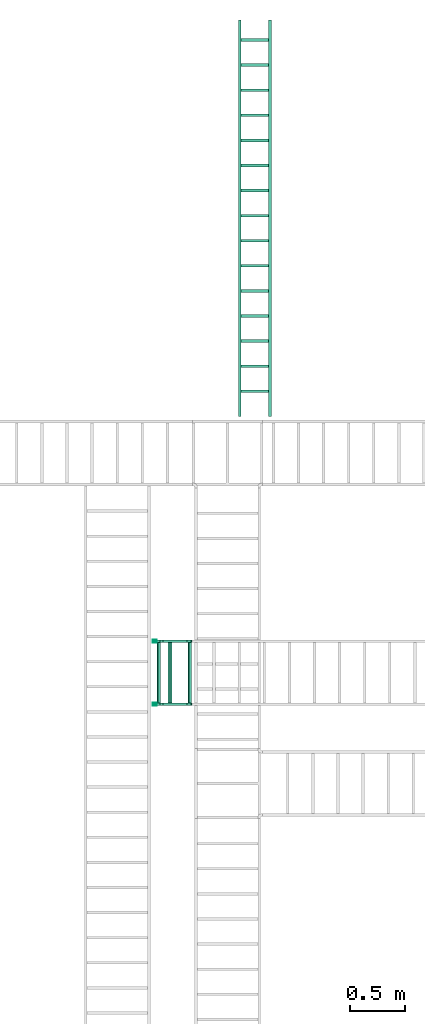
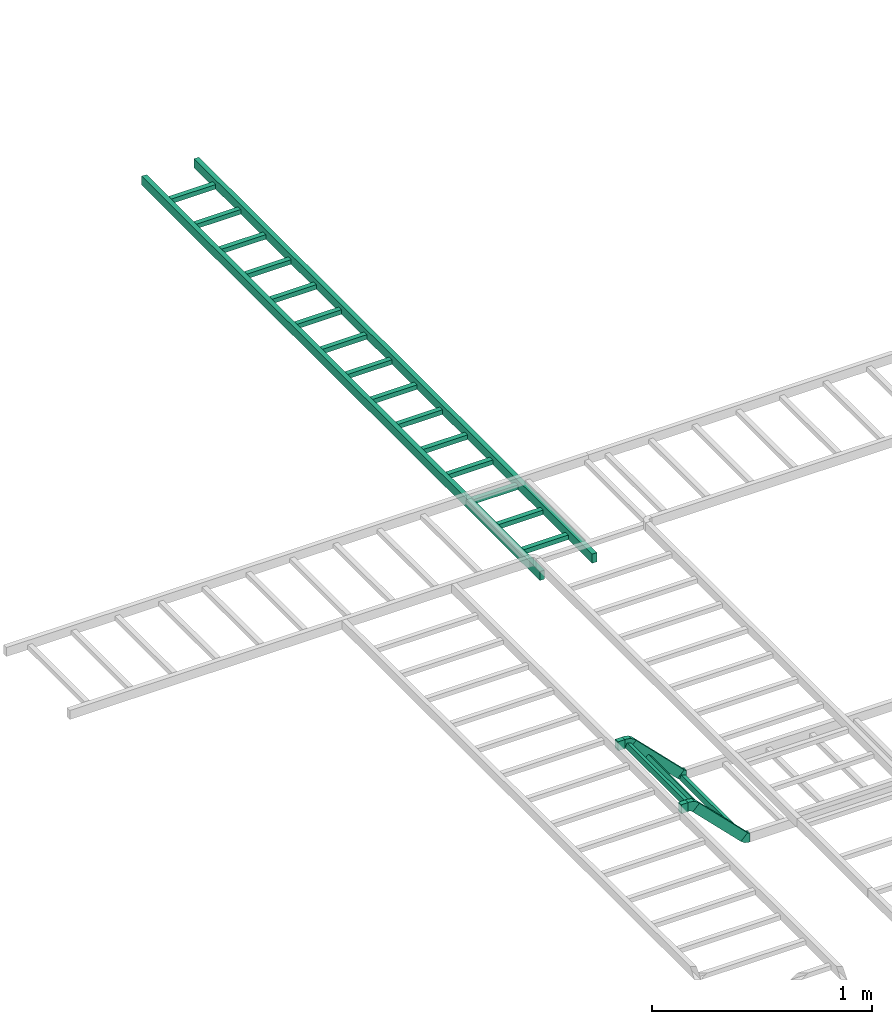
# One storey, part 6 of 6: 3 flow segments, 2 flow fittings.
"""IFC2X3 building model written with IfcOpenShell, lengths in millimetres."""

from ifc_helpers import new_model, entity, si_unit, converted_unit, derived_unit, direction, frame, origin_with_axes, place, context, subcontext, project, spatial, open_shell, faceted_brep, surface_model, source, transform, mapped, type_object, element, save


model = new_model("IFC2X3")

# Units and contexts
model_context = context("Model", 3, precision=0.01, world=frame((0.0, 4.29681676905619e-09, 0.0)), true_north=direction((4.01073788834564e-13, 1.0)))
plan_context = context("Plan", 3, precision=0.01, world=frame((0.0, 4.29681676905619e-09, 0.0)), true_north=direction((4.01073788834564e-13, 1.0)))
body_context = subcontext(model_context, "Body", "Model", "MODEL_VIEW")
ifc_project = project(units=[converted_unit("PLANEANGLEUNIT", "DEGREE", entity("IfcPositiveLengthMeasure", 0.0174532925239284), si_unit("PLANEANGLEUNIT", "RADIAN"), dimensions=[0, 0, 0, 0, 0, 0, 0]), si_unit("AREAUNIT", "SQUARE_METRE"), si_unit("LENGTHUNIT", "METRE", prefix="MILLI"), si_unit("MASSUNIT", "GRAM", prefix="KILO"), si_unit("POWERUNIT", "WATT"), si_unit("PRESSUREUNIT", "PASCAL", prefix="KILO"), si_unit("FORCEUNIT", "NEWTON", prefix="KILO"), si_unit("ELECTRICVOLTAGEUNIT", "VOLT"), si_unit("ELECTRICCURRENTUNIT", "AMPERE"), si_unit("THERMODYNAMICTEMPERATUREUNIT", "DEGREE_CELSIUS"), si_unit("TIMEUNIT", "SECOND"), si_unit("VOLUMEUNIT", "CUBIC_METRE"), derived_unit("LINEARVELOCITYUNIT", [(si_unit("LENGTHUNIT", "METRE"), 1), (si_unit("TIMEUNIT", "SECOND"), -1)]), derived_unit("VOLUMETRICFLOWRATEUNIT", [(si_unit("VOLUMEUNIT", "CUBIC_METRE"), 1), (si_unit("TIMEUNIT", "SECOND"), -1)]), derived_unit("THERMALTRANSMITTANCEUNIT", [(si_unit("POWERUNIT", "WATT"), 1), (si_unit("THERMODYNAMICTEMPERATUREUNIT", "KELVIN"), -1), (si_unit("AREAUNIT", "SQUARE_METRE"), -1)]), derived_unit("SOUNDPRESSUREUNIT", [(si_unit("PRESSUREUNIT", "PASCAL"), 1)])], contexts=[model_context, plan_context])

# Site, building, storey
site_placement = place(None, frame((0.0, -4.29681676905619e-09, 0.0), z_axis=(0.0, 0.0, 1.0), x_axis=(1.0, 0.0, 0.0)))
site = spatial("IfcSite", under=ifc_project, at=site_placement, Name="ENGM", CompositionType="ELEMENT")
building_placement = place(site_placement, frame((0.0, 4.29681676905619e-09, 0.0), z_axis=(0.0, 0.0, 1.0), x_axis=(1.0, 0.0, 0.0)))
building = spatial("IfcBuilding", under=site, at=building_placement, Name="TS", CompositionType="ELEMENT")
storey_placement = place(building_placement, frame((0.0, 0.0, 210900.0), z_axis=(0.0, 0.0, 1.0), x_axis=(1.0, 0.0, 0.0)))
storey = spatial("IfcBuildingStorey", under=building, at=storey_placement, Name="Nivå F", CompositionType="ELEMENT", Elevation=210900.0)

# Flow fittings
cable_carrier_fitting_type = type_object("IfcCableCarrierFittingType", Name="Standard 10mm", PredefinedType="BEND")
shared_shape_1 = source(origin_with_axes(), body_context, "Body", "SurfaceModel", [
    surface_model("IfcShellBasedSurfaceModel", [(10.47664, 7.89385, 274.60001), (20.1968, -15.57269, -274.60001), (10.47664, 7.89385, -274.60001), (20.1968, -15.57269, 274.60001), (-3.26974, -25.29285, 274.60001), (-3.26974, -25.29285, -274.60001), (-12.9899, -1.82631, -274.60001), (-12.9899, -1.82631, 274.60001), (-17.49748, 25.0, 300.0), (-17.49748, 25.0, 274.60001), (-17.49748, -25.0, 274.60001), (-17.49748, -25.0, 300.0), (-17.49748, 25.0, -274.60001), (-17.49748, 25.0, -300.0), (-17.49748, -25.0, -300.0), (-17.49748, -25.0, -274.60001), (-14.49747, 25.0, 274.60001), (-14.49747, 25.0, 300.0), (-14.49747, -25.0, 274.60001), (8.46353, -20.43277, 274.60001), (-10.67064, 25.7612, 274.60001), (-7.42641, 27.92893, 274.60001), (-5.30509, 30.05025, 274.60001), (27.92893, -7.42641, 274.60001), (30.05025, -5.30509, 274.60001), (-14.49747, -25.0, 300.0), (8.46353, -20.43277, 300.0), (-10.67064, 25.7612, 300.0), (27.92893, -7.42641, 300.0), (-7.42641, 27.92893, 300.0), (-5.30509, 30.05025, 300.0), (30.05025, -5.30509, 300.0), (-14.49747, 25.0, -300.0), (-14.49747, 25.0, -274.60001), (-14.49747, -25.0, -300.0), (8.46353, -20.43277, -300.0), (-10.67064, 25.7612, -300.0), (-7.42641, 27.92893, -300.0), (-5.30509, 30.05025, -300.0), (27.92893, -7.42641, -300.0), (30.05025, -5.30509, -300.0), (-14.49747, -25.0, -274.60001), (8.46353, -20.43277, -274.60001), (-10.67064, 25.7612, -274.60001), (27.92893, -7.42641, -274.60001), (-7.42641, 27.92893, -274.60001), (-5.30509, 30.05025, -274.60001), (30.05025, -5.30509, -274.60001), (-3.01697, -22.71639, 300.0), (-3.01697, -22.71639, 274.60001), (16.41376, -15.1206, 274.60001), (18.19623, -13.92959, 300.0), (-0.91441, -22.29816, -300.0), (-3.01697, -22.71639, -274.60001), (18.19623, -13.92959, -274.60001), (18.19623, -13.92959, -300.0)], [open_shell([[[0, 1, 2]], [[1, 0, 3]], [[1, 3, 4]], [[4, 5, 1]], [[2, 1, 5]], [[5, 6, 2]], [[0, 2, 6]], [[6, 7, 0]], [[3, 0, 7]], [[7, 4, 3]], [[6, 5, 4]], [[4, 7, 6]], [[8, 9, 10]], [[10, 11, 8]], [[12, 13, 14]], [[14, 15, 12]], [[9, 8, 16]], [[17, 16, 8]], [[9, 18, 10]], [[18, 9, 16]], [[19, 18, 16]], [[16, 20, 19]], [[21, 22, 23]], [[21, 23, 19]], [[23, 22, 24]], [[21, 19, 20]], [[11, 10, 18]], [[18, 25, 11]], [[11, 25, 8]], [[17, 8, 25]], [[26, 27, 17]], [[17, 25, 26]], [[26, 28, 29]], [[28, 30, 29]], [[30, 28, 31]], [[26, 29, 27]], [[13, 12, 32]], [[33, 32, 12]], [[13, 34, 14]], [[34, 13, 32]], [[35, 34, 32]], [[32, 36, 35]], [[37, 38, 39]], [[37, 39, 35]], [[39, 38, 40]], [[37, 35, 36]], [[15, 14, 34]], [[34, 41, 15]], [[15, 41, 12]], [[33, 12, 41]], [[42, 43, 33]], [[33, 41, 42]], [[42, 44, 45]], [[44, 46, 45]], [[46, 44, 47]], [[42, 45, 43]], [[27, 16, 17]], [[20, 16, 27]], [[29, 21, 20]], [[27, 29, 20]], [[18, 48, 25]], [[49, 26, 48]], [[26, 49, 19]], [[26, 50, 51]], [[23, 28, 51]], [[50, 26, 19]], [[23, 51, 50]], [[18, 49, 48]], [[33, 36, 32]], [[43, 36, 33]], [[45, 37, 43]], [[36, 43, 37]], [[42, 52, 35]], [[34, 52, 53]], [[41, 34, 53]], [[52, 42, 53]], [[54, 42, 55]], [[39, 44, 54]], [[39, 54, 55]], [[42, 35, 55]], [[24, 22, 31]], [[30, 31, 22]], [[40, 38, 46]], [[46, 47, 40]], [[21, 29, 30]], [[30, 22, 21]], [[28, 23, 24]], [[24, 31, 28]], [[37, 45, 38]], [[46, 38, 45]], [[44, 39, 40]], [[40, 47, 44]]])]),
])
flow_fitting_1_placement = place(storey_placement, frame((716826.81323, 440264.80936, 3618.23548999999), z_axis=(0.0, 1.0, 0.0), x_axis=(-1.0, 0.0, 0.0)))
element("IfcFlowFitting", 1, at=flow_fitting_1_placement, inside=storey, type_object=cable_carrier_fitting_type, Name="Standard 10mm", context=body_context, shape_type="MappedRepresentation", body=[
    mapped(shared_shape_1, transform((0.0, 0.0, 0.0), scale=1.0)),
])
shared_shape_2 = source(origin_with_axes(), body_context, "Body", "SurfaceModel", [
    surface_model("IfcShellBasedSurfaceModel", [(-7.42641, 27.92893, 274.60001), (27.92893, -7.42641, 274.60001), (8.46353, -20.43277, 274.60001), (-10.67064, 25.7612, 274.60001), (8.46353, -20.43277, 300.0), (27.92893, -7.42641, 300.0), (-7.42641, 27.92893, 300.0), (-10.67064, 25.7612, 300.0), (-7.42641, 27.92893, -300.0), (27.92893, -7.42641, -300.0), (8.46353, -20.43277, -300.0), (-10.67064, 25.7612, -300.0), (8.46353, -20.43277, -274.60001), (27.92893, -7.42641, -274.60001), (-7.42641, 27.92893, -274.60001), (-10.67064, 25.7612, -274.60001), (-14.49747, 25.0, 274.60001), (-14.49747, 25.0, 300.0), (-14.49747, -25.0, 274.60001), (-3.01697, -22.71639, 300.0), (-14.49747, -25.0, 300.0), (-3.01697, -22.71639, 274.60001), (16.41376, -15.1206, 274.60001), (18.19623, -13.92959, 300.0), (-14.49747, 25.0, -274.60001), (-14.49747, 25.0, -300.0), (-0.91441, -22.29816, -300.0), (-14.49747, -25.0, -300.0), (-3.01697, -22.71639, -274.60001), (-14.49747, -25.0, -274.60001), (18.19623, -13.92959, -274.60001), (18.19623, -13.92959, -300.0), (1.06263, 30.62128, 274.60001), (10.78279, 7.15474, -274.60001), (1.06263, 30.62128, -274.60001), (10.78279, 7.15474, 274.60001), (-12.68375, -2.56542, -274.60001), (-12.68375, -2.56542, 274.60001), (-22.40391, 20.90112, -274.60001), (-22.40391, 20.90112, 274.60001), (-24.49747, 25.0, 300.0), (-24.49747, 25.0, 274.60001), (-24.49747, -25.0, 274.60001), (-24.49747, -25.0, 300.0), (-24.49747, 25.0, -274.60001), (-24.49747, 25.0, -300.0), (-24.49747, -25.0, -300.0), (-24.49747, -25.0, -274.60001), (-0.35534, 35.0, 274.60001), (35.0, -0.35534, 274.60001), (-0.35534, 35.0, 300.0), (35.0, -0.35534, 300.0), (-0.35534, 35.0, -300.0), (35.0, -0.35534, -300.0), (-0.35534, 35.0, -274.60001), (35.0, -0.35534, -274.60001)], [open_shell([[[0, 1, 2]], [[0, 2, 3]], [[4, 5, 6]], [[4, 6, 7]], [[8, 9, 10]], [[8, 10, 11]], [[12, 13, 14]], [[12, 14, 15]], [[7, 16, 17]], [[3, 16, 7]], [[6, 0, 3]], [[7, 6, 3]], [[18, 19, 20]], [[21, 4, 19]], [[4, 21, 2]], [[4, 22, 23]], [[1, 5, 23]], [[22, 4, 2]], [[1, 23, 22]], [[18, 21, 19]], [[24, 11, 25]], [[15, 11, 24]], [[14, 8, 15]], [[11, 15, 8]], [[12, 26, 10]], [[27, 26, 28]], [[29, 27, 28]], [[26, 12, 28]], [[30, 12, 31]], [[9, 13, 30]], [[9, 30, 31]], [[12, 10, 31]], [[32, 33, 34]], [[33, 32, 35]], [[33, 35, 36]], [[37, 36, 35]], [[34, 33, 36]], [[36, 38, 34]], [[32, 34, 38]], [[38, 39, 32]], [[35, 32, 39]], [[39, 37, 35]], [[38, 36, 37]], [[37, 39, 38]], [[40, 41, 42]], [[42, 43, 40]], [[44, 45, 46]], [[46, 47, 44]], [[41, 40, 16]], [[17, 16, 40]], [[41, 18, 42]], [[18, 41, 16]], [[18, 16, 3]], [[3, 2, 18]], [[0, 48, 1]], [[1, 48, 49]], [[43, 42, 18]], [[18, 20, 43]], [[43, 20, 40]], [[17, 40, 20]], [[7, 17, 20]], [[20, 4, 7]], [[5, 50, 6]], [[50, 5, 51]], [[45, 44, 25]], [[24, 25, 44]], [[45, 27, 46]], [[27, 45, 25]], [[27, 25, 11]], [[11, 10, 27]], [[8, 52, 9]], [[9, 52, 53]], [[47, 46, 27]], [[27, 29, 47]], [[47, 29, 44]], [[24, 44, 29]], [[15, 24, 29]], [[29, 12, 15]], [[13, 54, 14]], [[54, 13, 55]], [[49, 48, 51]], [[50, 51, 48]], [[53, 52, 55]], [[54, 55, 52]], [[0, 6, 48]], [[50, 48, 6]], [[5, 1, 49]], [[49, 51, 5]], [[8, 14, 54]], [[54, 52, 8]], [[13, 9, 55]], [[53, 55, 9]]])]),
])
flow_fitting_2_placement = place(storey_placement, frame((716545.04872, 440264.80936, 3900.0), z_axis=(0.0, -1.0, 0.0), x_axis=(-0.707106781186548, 0.0, 0.707106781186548)))
element("IfcFlowFitting", 2, at=flow_fitting_2_placement, inside=storey, type_object=cable_carrier_fitting_type, Name="Standard 10mm", context=body_context, shape_type="MappedRepresentation", body=[
    mapped(shared_shape_2, transform((0.0, 0.0, 0.0), scale=1.0)),
])

# Flow segments
cable_carrier_segment_type = type_object("IfcCableCarrierSegmentType", Name="Kabelbro", PredefinedType="CABLELADDERSEGMENT")
shared_shape_3 = source(origin_with_axes(), body_context, "Body", "SurfaceModel", [
    surface_model("IfcShellBasedSurfaceModel", [(0.0, -300.0, 25.0), (0.0, -274.60001, -25.0), (0.0, -300.0, -25.0), (0.0, -274.60001, 25.0), (215.89999, -274.60001, -25.0), (241.30001, -274.60001, -25.0), (241.30001, -274.60001, 0.4), (215.89999, -274.60001, 0.4), (241.30001, 274.60001, 0.4), (241.30001, 274.60001, -25.0), (215.89999, 274.60001, -25.0), (215.89999, 274.60001, 0.4), (0.0, 300.0, 25.0), (0.0, 300.0, -25.0), (0.0, 274.60001, -25.0), (0.0, 274.60001, 25.0), (356.48024, -300.0, -25.0), (356.48024, -274.60001, -25.0), (356.48024, -300.0, 25.0), (356.48024, -274.60001, 25.0), (356.48024, 274.60001, -25.0), (356.48024, 300.0, -25.0), (356.48024, 274.60001, 25.0), (356.48024, 300.0, 25.0)], [open_shell([[[0, 1, 2]], [[1, 0, 3]], [[4, 5, 6]], [[6, 7, 4]], [[8, 9, 10]], [[10, 11, 8]], [[6, 5, 9]], [[9, 8, 6]], [[4, 7, 11]], [[11, 10, 4]], [[7, 6, 8]], [[8, 11, 7]], [[12, 13, 14]], [[14, 15, 12]], [[5, 4, 10]], [[10, 9, 5]], [[16, 17, 18]], [[19, 18, 17]], [[20, 21, 22]], [[23, 22, 21]], [[0, 2, 18]], [[16, 18, 2]], [[3, 0, 18]], [[18, 19, 3]], [[1, 3, 19]], [[19, 17, 1]], [[2, 1, 17]], [[17, 16, 2]], [[13, 12, 23]], [[23, 21, 13]], [[14, 13, 21]], [[21, 20, 14]], [[15, 14, 22]], [[20, 22, 14]], [[12, 15, 22]], [[22, 23, 12]]])]),
])
flow_segment_1_placement = place(storey_placement, frame((716814.44065, 440264.80936, 3630.60806999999), z_axis=(0.707106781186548, 0.0, 0.707106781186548), x_axis=(-0.707106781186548, 0.0, 0.707106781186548)))
element("IfcFlowSegment", 3, at=flow_segment_1_placement, inside=storey, type_object=cable_carrier_segment_type, Name="Kabelbro", context=body_context, shape_type="MappedRepresentation", body=[
    mapped(shared_shape_3, transform((0.0, 0.0, 0.0), scale=1.0)),
])
shared_shape_4 = source(origin_with_axes(), body_context, "Body", "SurfaceModel", [
    surface_model("IfcShellBasedSurfaceModel", [(0.0, -274.60001, 25.0), (0.0, -300.0, -25.0), (0.0, -300.0, 25.0), (0.0, -274.60001, -25.0), (0.0, 300.0, 25.0), (0.0, 274.60001, -25.0), (0.0, 274.60001, 25.0), (0.0, 300.0, -25.0), (35.50253, -300.0, 25.0), (35.50253, -300.0, -25.0), (35.50253, -274.60001, 25.0), (35.50253, -274.60001, -25.0), (35.50253, 274.60001, 25.0), (35.50253, 274.60001, -25.0), (35.50253, 300.0, 25.0), (35.50253, 300.0, -25.0)], [open_shell([[[0, 1, 2]], [[1, 0, 3]], [[4, 5, 6]], [[5, 4, 7]], [[8, 9, 10]], [[11, 10, 9]], [[12, 13, 14]], [[15, 14, 13]], [[2, 1, 9]], [[9, 8, 2]], [[0, 2, 8]], [[8, 10, 0]], [[3, 0, 10]], [[10, 11, 3]], [[1, 3, 11]], [[11, 9, 1]], [[7, 4, 14]], [[14, 15, 7]], [[5, 7, 15]], [[15, 13, 5]], [[6, 5, 13]], [[13, 12, 6]], [[4, 6, 12]], [[12, 14, 4]]])]),
])
flow_segment_2_placement = place(storey_placement, frame((716520.55125, 440264.80936, 3900.0), z_axis=(0.0, 0.0, 1.0), x_axis=(-1.0, 0.0, 0.0)))
element("IfcFlowSegment", 4, at=flow_segment_2_placement, inside=storey, type_object=cable_carrier_segment_type, Name="Kabelbro", context=body_context, shape_type="MappedRepresentation", body=[
    mapped(shared_shape_4, transform((0.0, 0.0, 0.0), scale=1.0)),
])
flow_segment_3_placement = place(storey_placement, frame((717415.2469, 442600.3397, 3320.0), z_axis=(0.0, 0.0, 1.0), x_axis=(0.0, 1.0, 0.0)))
element("IfcFlowSegment", 5, at=flow_segment_3_placement, inside=storey, type_object=cable_carrier_segment_type, Name="Kabelbro", context=body_context, shape_type="Brep", body=[
    faceted_brep([(241.30001, 124.6, -25.0), (241.30001, -124.6, -25.0), (241.30001, -124.6, 0.4), (241.30001, 124.6, 0.4), (215.89999, 124.6, 0.4), (215.89999, -124.6, 0.4), (215.89999, -124.6, -25.0), (215.89999, 124.6, -25.0), (469.89999, 124.6, -25.0), (469.89999, -124.6, -25.0), (469.89999, -124.6, 0.4), (469.89999, 124.6, 0.4), (444.50001, 124.6, 0.4), (444.50001, -124.6, 0.4), (444.50001, -124.6, -25.0), (444.50001, 124.6, -25.0), (698.50002, 124.6, -25.0), (698.50002, -124.6, -25.0), (698.50002, -124.6, 0.4), (698.50002, 124.6, 0.4), (673.09998, 124.6, 0.4), (673.09998, -124.6, 0.4), (673.09998, -124.6, -25.0), (673.09998, 124.6, -25.0), (927.10002, 124.6, -25.0), (927.10002, -124.6, -25.0), (927.10002, -124.6, 0.4), (927.10002, 124.6, 0.4), (901.69998, 124.6, 0.4), (901.69998, -124.6, 0.4), (901.69998, -124.6, -25.0), (901.69998, 124.6, -25.0), (1155.70002, 124.6, -25.0), (1155.70002, -124.6, -25.0), (1155.70002, -124.6, 0.4), (1155.70002, 124.6, 0.4), (1130.29998, 124.6, 0.4), (1130.29998, -124.6, 0.4), (1130.29998, -124.6, -25.0), (1130.29998, 124.6, -25.0), (1384.29995, 124.6, -25.0), (1384.29995, -124.6, -25.0), (1384.29995, -124.6, 0.4), (1384.29995, 124.6, 0.4), (1358.90005, 124.6, 0.4), (1358.90005, -124.6, 0.4), (1358.90005, -124.6, -25.0), (1358.90005, 124.6, -25.0), (1612.89995, 124.6, -25.0), (1612.89995, -124.6, -25.0), (1612.89995, -124.6, 0.4), (1612.89995, 124.6, 0.4), (1587.50005, 124.6, 0.4), (1587.50005, -124.6, 0.4), (1587.50005, -124.6, -25.0), (1587.50005, 124.6, -25.0), (1841.49995, 124.6, -25.0), (1841.49995, -124.6, -25.0), (1841.49995, -124.6, 0.4), (1841.49995, 124.6, 0.4), (1816.10005, 124.6, 0.4), (1816.10005, -124.6, 0.4), (1816.10005, -124.6, -25.0), (1816.10005, 124.6, -25.0), (2070.09995, 124.6, -25.0), (2070.09995, -124.6, -25.0), (2070.09995, -124.6, 0.4), (2070.09995, 124.6, 0.4), (2044.70005, 124.6, 0.4), (2044.70005, -124.6, 0.4), (2044.70005, -124.6, -25.0), (2044.70005, 124.6, -25.0), (2298.69995, 124.6, -25.0), (2298.69995, -124.6, -25.0), (2298.69995, -124.6, 0.4), (2298.69995, 124.6, 0.4), (2273.30005, 124.6, 0.4), (2273.30005, -124.6, 0.4), (2273.30005, -124.6, -25.0), (2273.30005, 124.6, -25.0), (2527.3001, 124.6, -25.0), (2527.3001, -124.6, -25.0), (2527.3001, -124.6, 0.4), (2527.3001, 124.6, 0.4), (2501.8999, 124.6, 0.4), (2501.8999, -124.6, 0.4), (2501.8999, -124.6, -25.0), (2501.8999, 124.6, -25.0), (2755.9001, 124.6, -25.0), (2755.9001, -124.6, -25.0), (2755.9001, -124.6, 0.4), (2755.9001, 124.6, 0.4), (2730.4999, 124.6, 0.4), (2730.4999, -124.6, 0.4), (2730.4999, -124.6, -25.0), (2730.4999, 124.6, -25.0), (2984.5001, 124.6, -25.0), (2984.5001, -124.6, -25.0), (2984.5001, -124.6, 0.4), (2984.5001, 124.6, 0.4), (2959.0999, 124.6, 0.4), (2959.0999, -124.6, 0.4), (2959.0999, -124.6, -25.0), (2959.0999, 124.6, -25.0), (3213.1001, 124.6, -25.0), (3213.1001, -124.6, -25.0), (3213.1001, -124.6, 0.4), (3213.1001, 124.6, 0.4), (3187.6999, 124.6, 0.4), (3187.6999, -124.6, 0.4), (3187.6999, -124.6, -25.0), (3187.6999, 124.6, -25.0), (3441.7001, 124.6, -25.0), (3441.7001, -124.6, -25.0), (3441.7001, -124.6, 0.4), (3441.7001, 124.6, 0.4), (3416.2999, 124.6, 0.4), (3416.2999, -124.6, 0.4), (3416.2999, -124.6, -25.0), (3416.2999, 124.6, -25.0), (0.0, -124.6, 25.0), (0.0, -150.0, 25.0), (0.0, -124.6, -25.0), (0.0, -150.0, -25.0), (0.0, 150.0, 25.0), (0.0, 124.6, 25.0), (0.0, 150.0, -25.0), (0.0, 124.6, -25.0), (3611.08476383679, -150.0, -5.0923727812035), (3611.08476383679, -150.0, -25.0), (3611.08476383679, -150.0, 25.0), (3611.08476383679, -124.6, 25.0), (3611.08476383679, -134.713074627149, 25.0), (3611.08476383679, -124.6, 5.0923727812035), (3611.08476383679, -124.6, -25.0), (3611.08476383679, -139.886925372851, -25.0), (3611.08476383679, 150.0, 5.0923727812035), (3611.08476383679, 150.0, 25.0), (3611.08476383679, 150.0, -25.0), (3611.08476383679, 124.6, -25.0), (3611.08476383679, 134.713074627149, -25.0), (3611.08476383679, 124.6, -5.0923727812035), (3611.08476383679, 124.6, 25.0), (3611.08476383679, 139.886925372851, 25.0)], [[[0, 1, 2]], [[2, 3, 0]], [[4, 2, 5]], [[2, 4, 3]], [[4, 5, 6]], [[6, 7, 4]], [[0, 6, 1]], [[6, 0, 7]], [[8, 9, 10]], [[10, 11, 8]], [[12, 10, 13]], [[10, 12, 11]], [[12, 13, 14]], [[14, 15, 12]], [[8, 14, 9]], [[14, 8, 15]], [[16, 17, 18]], [[18, 19, 16]], [[20, 18, 21]], [[18, 20, 19]], [[20, 21, 22]], [[22, 23, 20]], [[16, 22, 17]], [[22, 16, 23]], [[24, 25, 26]], [[26, 27, 24]], [[28, 26, 29]], [[26, 28, 27]], [[28, 29, 30]], [[30, 31, 28]], [[24, 30, 25]], [[30, 24, 31]], [[32, 33, 34]], [[34, 35, 32]], [[36, 34, 37]], [[34, 36, 35]], [[36, 37, 38]], [[38, 39, 36]], [[32, 38, 33]], [[38, 32, 39]], [[40, 41, 42]], [[42, 43, 40]], [[44, 42, 45]], [[42, 44, 43]], [[44, 45, 46]], [[46, 47, 44]], [[40, 46, 41]], [[46, 40, 47]], [[48, 49, 50]], [[50, 51, 48]], [[52, 50, 53]], [[50, 52, 51]], [[52, 53, 54]], [[54, 55, 52]], [[48, 54, 49]], [[54, 48, 55]], [[56, 57, 58]], [[58, 59, 56]], [[60, 58, 61]], [[58, 60, 59]], [[60, 61, 62]], [[62, 63, 60]], [[56, 62, 57]], [[62, 56, 63]], [[64, 65, 66]], [[66, 67, 64]], [[68, 66, 69]], [[66, 68, 67]], [[68, 69, 70]], [[70, 71, 68]], [[64, 70, 65]], [[70, 64, 71]], [[72, 73, 74]], [[74, 75, 72]], [[76, 74, 77]], [[74, 76, 75]], [[76, 77, 78]], [[78, 79, 76]], [[72, 78, 73]], [[78, 72, 79]], [[80, 81, 82]], [[82, 83, 80]], [[84, 82, 85]], [[82, 84, 83]], [[84, 85, 86]], [[86, 87, 84]], [[80, 86, 81]], [[86, 80, 87]], [[88, 89, 90]], [[90, 91, 88]], [[92, 90, 93]], [[90, 92, 91]], [[92, 93, 94]], [[94, 95, 92]], [[88, 94, 89]], [[94, 88, 95]], [[96, 97, 98]], [[98, 99, 96]], [[100, 98, 101]], [[98, 100, 99]], [[100, 101, 102]], [[102, 103, 100]], [[96, 102, 97]], [[102, 96, 103]], [[104, 105, 106]], [[106, 107, 104]], [[108, 106, 109]], [[106, 108, 107]], [[108, 109, 110]], [[110, 111, 108]], [[104, 110, 105]], [[110, 104, 111]], [[112, 113, 114]], [[114, 115, 112]], [[116, 114, 117]], [[114, 116, 115]], [[116, 117, 118]], [[118, 119, 116]], [[112, 118, 113]], [[118, 112, 119]], [[120, 121, 122]], [[123, 122, 121]], [[124, 125, 126]], [[127, 126, 125]], [[2, 1, 6]], [[6, 5, 2]], [[7, 0, 3]], [[3, 4, 7]], [[10, 9, 14]], [[14, 13, 10]], [[15, 8, 11]], [[11, 12, 15]], [[18, 17, 22]], [[22, 21, 18]], [[23, 16, 19]], [[19, 20, 23]], [[26, 25, 30]], [[30, 29, 26]], [[31, 24, 27]], [[27, 28, 31]], [[34, 33, 38]], [[38, 37, 34]], [[39, 32, 35]], [[35, 36, 39]], [[42, 41, 46]], [[46, 45, 42]], [[47, 40, 43]], [[43, 44, 47]], [[50, 49, 54]], [[54, 53, 50]], [[55, 48, 51]], [[51, 52, 55]], [[58, 57, 62]], [[62, 61, 58]], [[63, 56, 59]], [[59, 60, 63]], [[66, 65, 70]], [[70, 69, 66]], [[71, 64, 67]], [[67, 68, 71]], [[74, 73, 78]], [[78, 77, 74]], [[79, 72, 75]], [[75, 76, 79]], [[82, 81, 86]], [[86, 85, 82]], [[87, 80, 83]], [[83, 84, 87]], [[90, 89, 94]], [[94, 93, 90]], [[95, 88, 91]], [[91, 92, 95]], [[98, 97, 102]], [[102, 101, 98]], [[103, 96, 99]], [[99, 100, 103]], [[106, 105, 110]], [[110, 109, 106]], [[111, 104, 107]], [[107, 108, 111]], [[114, 113, 118]], [[118, 117, 114]], [[119, 112, 115]], [[115, 116, 119]], [[128, 129, 123, 121]], [[130, 128, 121]], [[131, 132, 121, 120]], [[132, 130, 121]], [[133, 131, 120, 122]], [[134, 133, 122]], [[129, 135, 122, 123]], [[135, 134, 122]], [[136, 137, 124, 126]], [[138, 136, 126]], [[139, 140, 126, 127]], [[140, 138, 126]], [[141, 139, 127, 125]], [[142, 141, 125]], [[137, 143, 125, 124]], [[143, 142, 125]], [[130, 132, 131, 133, 134, 135, 129, 128]], [[138, 140, 139, 141, 142, 143, 137, 136]]], orient=[[False], [False], [False], [False], [False], [False], [False], [False], [False], [False], [False], [False], [False], [False], [False], [False], [False], [False], [False], [False], [False], [False], [False], [False], [False], [False], [False], [False], [False], [False], [False], [False], [False], [False], [False], [False], [False], [False], [False], [False], [False], [False], [False], [False], [False], [False], [False], [False], [False], [False], [False], [False], [False], [False], [False], [False], [False], [False], [False], [False], [False], [False], [False], [False], [False], [False], [False], [False], [False], [False], [False], [False], [False], [False], [False], [False], [False], [False], [False], [False], [False], [False], [False], [False], [False], [False], [False], [False], [False], [False], [False], [False], [False], [False], [False], [False], [False], [False], [False], [False], [False], [False], [False], [False], [False], [False], [False], [False], [False], [False], [False], [False], [False], [False], [False], [False], [False], [False], [False], [False], [False], [False], [False], [False], [False], [False], [False], [False], [False], [False], [False], [False], [False], [False], [False], [False], [False], [False], [False], [False], [False], [False], [False], [False], [False], [False], [False], [False], [False], [False], [False], [False], [False], [False], [False], [False], [False], [False], [False], [False], [False], [False], [False], [False], [False], [False], [False], [False], [False], [False], [False], [False], [False], [False], [False], [False], [False], [False], [False], [False], [False], [False], [False], [False], [False], [False], [False], [False], [False], [False], [False], [False], [False], [False], [False], [False], [False], [False], [False], [False], [False], [False]]),
])

save(model, "model.ifc")
